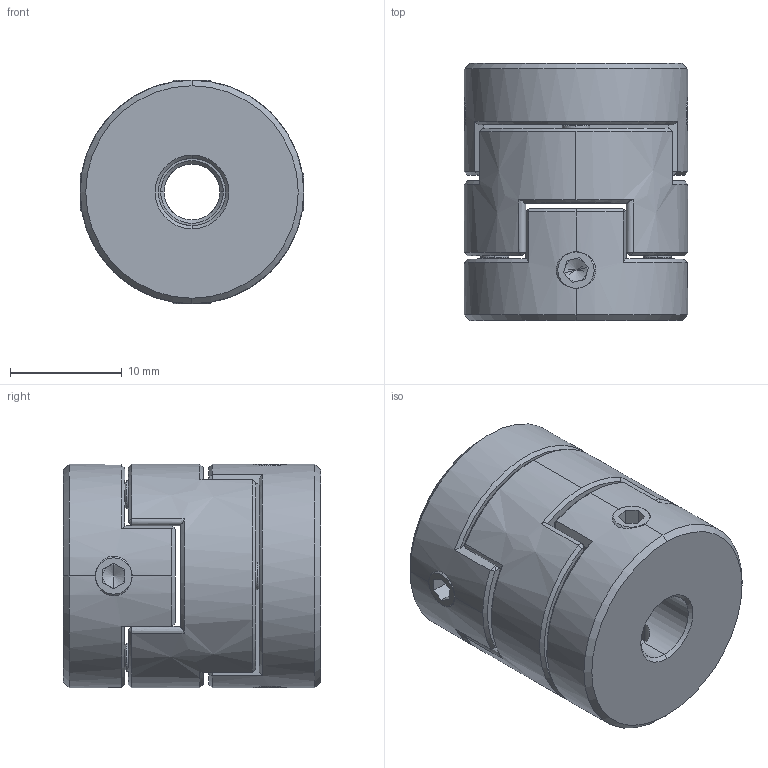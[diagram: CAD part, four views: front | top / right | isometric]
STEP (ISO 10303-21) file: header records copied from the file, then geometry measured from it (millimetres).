
FILE_DESCRIPTION (( 'STEP AP203' ), '1' );
FILE_NAME ('LZ-D-D20L23-5-6.STEP', '2021-10-30T01:42:26', ( '' ), ( '' ), 'SwSTEP 2.0', 'SolidWorks 2018', '' );
FILE_SCHEMA (( 'CONFIG_CONTROL_DESIGN' ));
Length unit declared in the file: millimetre
Products named in the file (1): LZ-D-D20L23-5-6
Bounding box: 20 x 23 x 20 mm (x, y, z)
Volume: 6252.3 mm3; surface area: 4116 mm2
Topology: 3 solids, 3 shells, 230 faces, 586 edges, 364 vertices
Faces by surface type: plane 116, cone 54, cylinder 34, bspline 26
Entity records: 9731 total; most frequent: CARTESIAN_POINT 4449, ORIENTED_EDGE 1156, DIRECTION 978, EDGE_CURVE 578, VERTEX_POINT 364, AXIS2_PLACEMENT_3D 357, LINE 264, VECTOR 264
